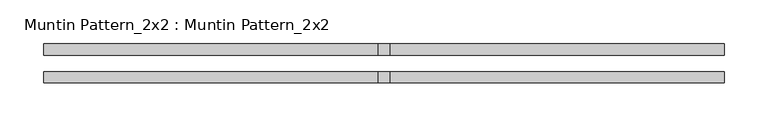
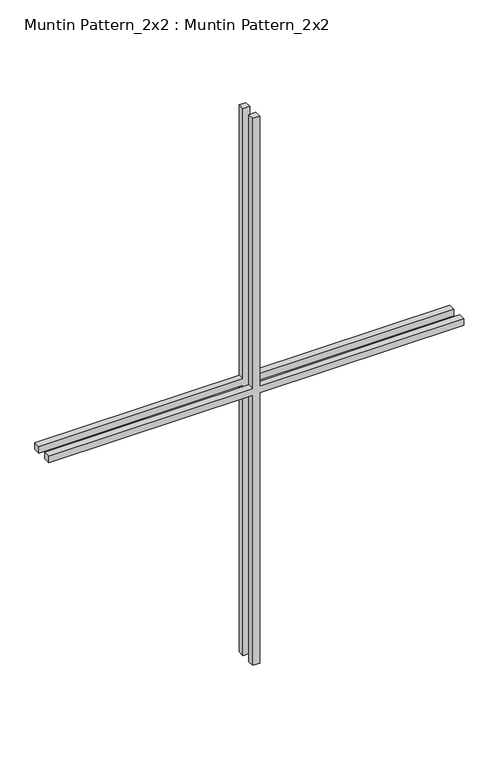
"""IFC4 building model written with IfcOpenShell, lengths in millimetres: proxy geometry, Muntin Pattern_2x2 : Muntin Pattern_2x2."""

from ifc_helpers import new_model, si_unit, frame, origin, place, context, project, spatial, polyline, outline, extrude, source, transform, mapped, element, save


def muntin_pattern_2x2_muntin_pattern_2x2_a8e7a107(model_context):
    return source(origin(), model_context, "Body", "SweptSolid", [
        extrude(outline(polyline([(546.5, -6.35), (546.5, -387.65), (533.8, -387.65), (533.8, -6.35), (0.0, -6.35), (0.0, 6.35), (533.8, 6.35), (533.8, 387.65), (546.5, 387.65), (546.5, 6.35), (1080.3, 6.35), (1080.3, -6.35), (546.5, -6.35)])), frame((0.0, -22.225, 0.0), z_axis=(0.0, 1.0, 0.0), x_axis=(0.0, 0.0, 1.0)), (0.0, 0.0, 1.0), 12.7),
        extrude(outline(polyline([(546.5, -6.35), (546.5, -387.65), (533.8, -387.65), (533.8, -6.35), (0.0, -6.35), (0.0, 6.35), (533.8, 6.35), (533.8, 387.65), (546.5, 387.65), (546.5, 6.35), (1080.3, 6.35), (1080.3, -6.35), (546.5, -6.35)])), frame((0.0, 9.525, 0.0), z_axis=(0.0, 1.0, 0.0), x_axis=(0.0, 0.0, 1.0)), (0.0, 0.0, 1.0), 12.7),
    ])


if __name__ == "__main__":
    model = new_model("IFC4")
    model_context = context("Model", 3, world=origin())
    ifc_project = project(units=[si_unit("LENGTHUNIT", "METRE", prefix="MILLI")], contexts=[model_context])
    site = spatial("IfcSite", under=ifc_project)
    building = spatial("IfcBuilding", under=site)
    placement = place(None, origin())
    muntin_pattern_2x2_muntin_pattern_2x2_shape = muntin_pattern_2x2_muntin_pattern_2x2_a8e7a107(model_context)
    element("IfcBuildingElementProxy", 1, Name="Muntin Pattern_2x2 : Muntin Pattern_2x2", ObjectType="Muntin Pattern_2x2 : Muntin Pattern_2x2", at=placement, inside=building, context=model_context, shape_type="MappedRepresentation", body=[
        mapped(muntin_pattern_2x2_muntin_pattern_2x2_shape, transform((0.0, 0.0, 0.0), x_axis=(1.0, 0.0, 0.0), y_axis=(0.0, 1.0, 0.0), z_axis=(0.0, 0.0, 1.0))),
    ])
    save(model, "model.ifc")
